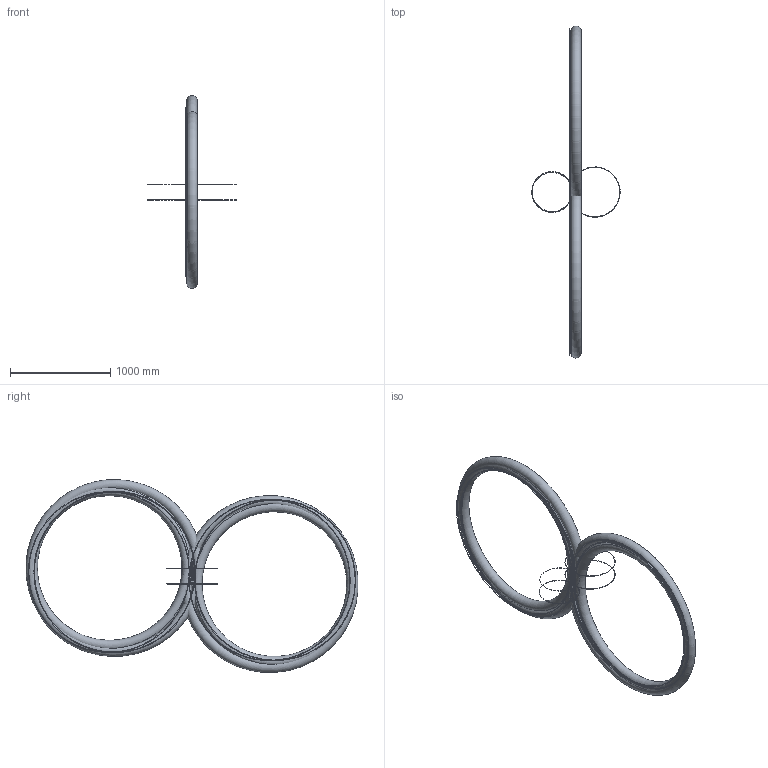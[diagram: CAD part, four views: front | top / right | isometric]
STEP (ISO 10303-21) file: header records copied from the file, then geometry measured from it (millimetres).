
FILE_DESCRIPTION((''),'2;1');
FILE_NAME('H3N_ASM','2014-06-03T',('user'),(''),'PRO/ENGINEER BY PARAMETRIC TECHNOLOGY CORPORATION, 2008090','PRO/ENGINEER BY PARAMETRIC TECHNOLOGY CORPORATION, 2008090','');
FILE_SCHEMA(('CONFIG_CONTROL_DESIGN'));
Products named in the file (1): H3N_ASM
Bounding box: 878.42 x 3305.52 x 1920.25 mm (x, y, z)
Topology: 0 solids, 0 shells, 1920 faces, 10489 edges, 10383 vertices
Faces by surface type: bspline 1808, torus 105, sphere 7
Entity records: 163315 total; most frequent: CARTESIAN_POINT 72380, DIRECTION 14116, TRIMMED_CURVE 12227, VECTOR 10562, LINE 10562, DEFINITIONAL_REPRESENTATION 10295, PCURVE 10295, COMPOSITE_CURVE_SEGMENT 10295
